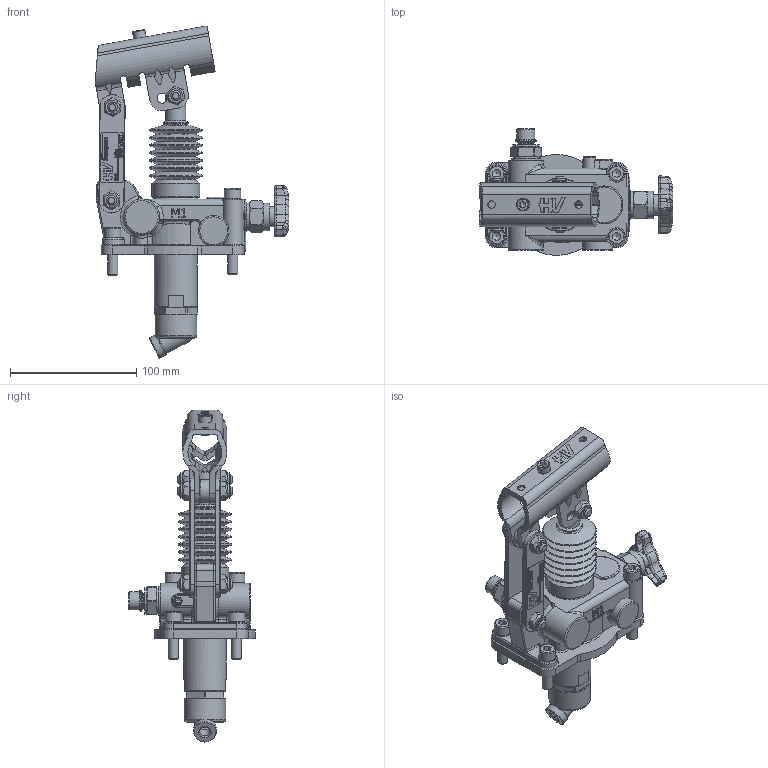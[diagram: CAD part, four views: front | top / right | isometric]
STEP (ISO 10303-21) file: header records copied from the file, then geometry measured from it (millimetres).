
FILE_DESCRIPTION((''),'2;1');
FILE_NAME('G:\HV_HYDRAULIC\AZIENDA_HV_HYDRAULIC\ARCHIVIO_DISEGNI\5_PRODOTTI_FINITI\1_POMPE_MANUALI\6068_PMSE_30\6068.0037_PMSE_30_s_(HV)\6068.0037.stp','2024-03-26T07:27:22',('christian.scardovi'),(''),'Autodesk Inventor 2013','Autodesk Inventor 2013','');
FILE_SCHEMA(('AUTOMOTIVE_DESIGN { 1 0 10303 214 1 1 1 1 }'));
Length unit declared in the file: millimetre
Products named in the file (1): 6068.0037
Bounding box: 153.43 x 100.5 x 263.06 mm (x, y, z)
Volume: 468636.4 mm3; surface area: 120707 mm2
Topology: 3 solids, 3 shells, 1697 faces, 4281 edges, 2679 vertices
Faces by surface type: plane 786, cylinder 346, bspline 261, torus 152, cone 138, sphere 14
Full cylindrical faces by diameter (mm): 4.917 x6, 5 x5, 6 x5, 6.5 x1, 8 x15, 9 x2, 9.2 x1, 10 x3, 11.05 x6, 12 x4, 13 x4, 13.2 x1, 13.5 x1, 14 x4, 14.5 x1, 14.95 x2, 16 x2, 16.5 x1, 18 x4, 20 x1, 21 x2, 21.8 x2, 22 x1, 23 x2, 24 x2, 26 x1, 26.3 x1, 26.5 x1, 27 x1, 28 x2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
Entity records: 59050 total; most frequent: CARTESIAN_POINT 19585, ORIENTED_EDGE 7958, DIRECTION 7253, EDGE_CURVE 3979, VERTEX_POINT 2604, AXIS2_PLACEMENT_3D 2602, VECTOR 2049, LINE 2049
